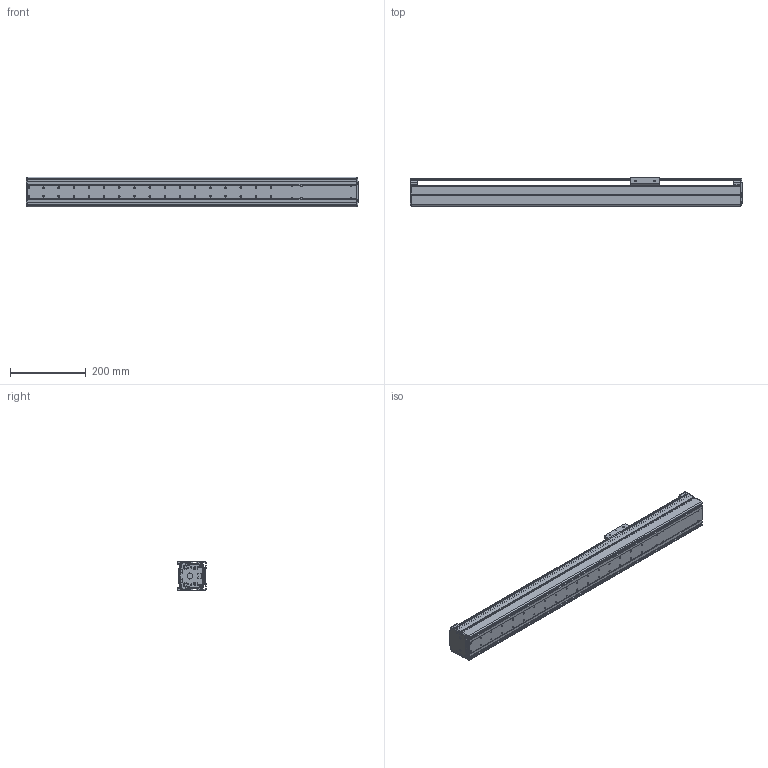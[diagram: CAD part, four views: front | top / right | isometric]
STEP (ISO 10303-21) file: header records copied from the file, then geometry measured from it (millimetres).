
FILE_DESCRIPTION((''),'2;1');
FILE_NAME('BE10E-ST-S_N-55_IGS_PRT','2017-06-17T',(' '),(''),'PRO/ENGINEER BY PARAMETRIC TECHNOLOGY CORPORATION, 2015030','PRO/ENGINEER BY PARAMETRIC TECHNOLOGY CORPORATION, 2015030','');
FILE_SCHEMA(('CONFIG_CONTROL_DESIGN'));
Length unit declared in the file: millimetre
Products named in the file (1): BE10E-ST-S_N-55_IGS_PRT
Bounding box: 875 x 75 x 78 mm (x, y, z)
Volume: 997693.1 mm3; surface area: 672147.4 mm2
Topology: 3 solids, 69 shells, 1159 faces, 3099 edges, 2012 vertices
Faces by surface type: cylinder 578, plane 428, torus 66, sphere 42, cone 38, bspline 7
Entity records: 37480 total; most frequent: CARTESIAN_POINT 7732, DIRECTION 6470, ORIENTED_EDGE 5904, EDGE_CURVE 3079, AXIS2_PLACEMENT_3D 2446, VERTEX_POINT 2012, VECTOR 1578, LINE 1578
